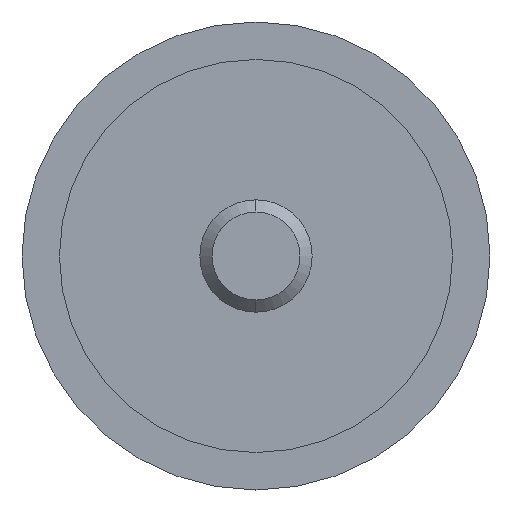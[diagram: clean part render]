
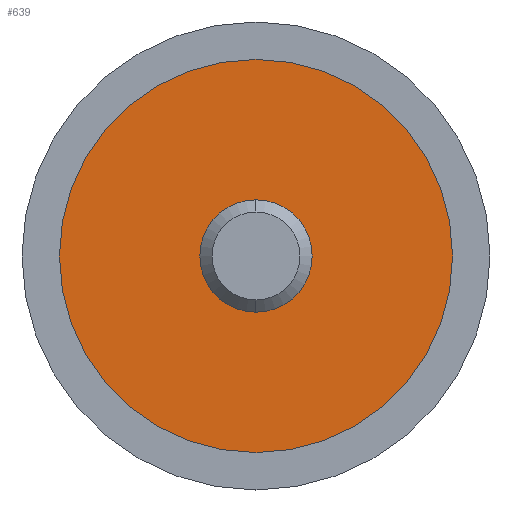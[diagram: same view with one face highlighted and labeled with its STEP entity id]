
A CAD part, left-side view. The second image highlights one B-rep face of the part: STEP entity #639.
In plain terms, the highlighted planar face has unit normal (-1, 0, 0).
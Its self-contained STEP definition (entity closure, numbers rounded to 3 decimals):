
#14 = DIRECTION ( 'NONE',  ( 0., 0., 1. ) ) ;
#53 = PLANE ( 'NONE',  #61 ) ;
#61 = AXIS2_PLACEMENT_3D ( 'NONE', #172, #585, #117 ) ;
#76 = DIRECTION ( 'NONE',  ( 0., 0., -1. ) ) ;
#117 = DIRECTION ( 'NONE',  ( 0., 0., -1. ) ) ;
#130 = DIRECTION ( 'NONE',  ( -1., 0., 0. ) ) ;
#133 = EDGE_CURVE ( 'NONE', #165, #197, #203, .T. ) ;
#146 = EDGE_LOOP ( 'NONE', ( #252, #618 ) ) ;
#165 = VERTEX_POINT ( 'NONE', #250 ) ;
#172 = CARTESIAN_POINT ( 'NONE',  ( -4.99, 10.5, 0. ) ) ;
#193 = AXIS2_PLACEMENT_3D ( 'NONE', #450, #130, #76 ) ;
#197 = VERTEX_POINT ( 'NONE', #305 ) ;
#203 = CIRCLE ( 'NONE', #528, 10.5 ) ;
#235 = CARTESIAN_POINT ( 'NONE',  ( -4.99, 0., 0. ) ) ;
#247 = CARTESIAN_POINT ( 'NONE',  ( -4.99, 0., 0. ) ) ;
#250 = CARTESIAN_POINT ( 'NONE',  ( -4.99, 0., -10.5 ) ) ;
#252 = ORIENTED_EDGE ( 'NONE', *, *, #469, .T. ) ;
#254 = DIRECTION ( 'NONE',  ( -1., 0., 0. ) ) ;
#264 = CIRCLE ( 'NONE', #475, 10.5 ) ;
#282 = AXIS2_PLACEMENT_3D ( 'NONE', #284, #431, #324 ) ;
#284 = CARTESIAN_POINT ( 'NONE',  ( -4.99, 0., 0. ) ) ;
#304 = VERTEX_POINT ( 'NONE', #356 ) ;
#305 = CARTESIAN_POINT ( 'NONE',  ( -4.99, 0., 10.5 ) ) ;
#317 = ORIENTED_EDGE ( 'NONE', *, *, #444, .F. ) ;
#324 = DIRECTION ( 'NONE',  ( 0., 0., -1. ) ) ;
#326 = FACE_OUTER_BOUND ( 'NONE', #146, .T. ) ;
#356 = CARTESIAN_POINT ( 'NONE',  ( -4.99, 0., 3. ) ) ;
#425 = EDGE_CURVE ( 'NONE', #455, #304, #570, .T. ) ;
#426 = EDGE_LOOP ( 'NONE', ( #317, #554 ) ) ;
#431 = DIRECTION ( 'NONE',  ( -1., 0., 0. ) ) ;
#438 = DIRECTION ( 'NONE',  ( -1., 0., 0. ) ) ;
#444 = EDGE_CURVE ( 'NONE', #304, #455, #549, .T. ) ;
#450 = CARTESIAN_POINT ( 'NONE',  ( -4.99, 0., 0. ) ) ;
#455 = VERTEX_POINT ( 'NONE', #498 ) ;
#469 = EDGE_CURVE ( 'NONE', #197, #165, #264, .T. ) ;
#475 = AXIS2_PLACEMENT_3D ( 'NONE', #247, #254, #545 ) ;
#498 = CARTESIAN_POINT ( 'NONE',  ( -4.99, 0., -3. ) ) ;
#528 = AXIS2_PLACEMENT_3D ( 'NONE', #235, #438, #14 ) ;
#545 = DIRECTION ( 'NONE',  ( 0., 0., 1. ) ) ;
#549 = CIRCLE ( 'NONE', #193, 3. ) ;
#554 = ORIENTED_EDGE ( 'NONE', *, *, #425, .F. ) ;
#570 = CIRCLE ( 'NONE', #282, 3. ) ;
#585 = DIRECTION ( 'NONE',  ( 1., 0., 0. ) ) ;
#618 = ORIENTED_EDGE ( 'NONE', *, *, #133, .T. ) ;
#632 = FACE_BOUND ( 'NONE', #426, .T. ) ;
#639 = ADVANCED_FACE ( 'NONE', ( #326, #632 ), #53, .F. ) ;
